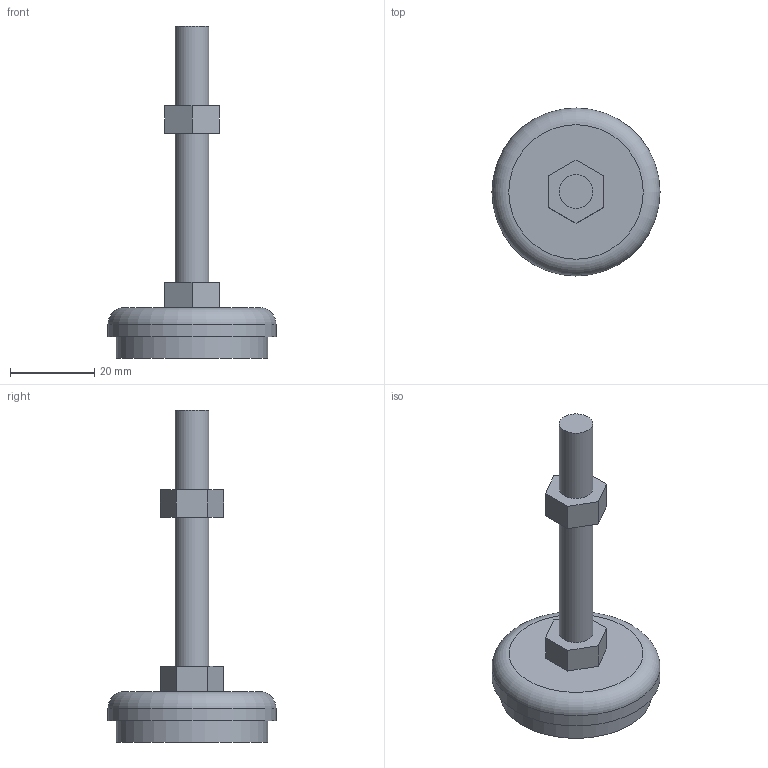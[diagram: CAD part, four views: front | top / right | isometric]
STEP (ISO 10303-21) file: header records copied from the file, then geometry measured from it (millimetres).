
FILE_DESCRIPTION((''),'2;1');
FILE_NAME('C:\Documents and Settings\古川典政\My Documents\Inventor\HP用\MasterData\ACCESSORY\M6\LFN-08.stp','2008-08-05T14:47:17',(''),(''),'Autodesk Inventor 2008','Autodesk Inventor 2008','');
FILE_SCHEMA(('CONFIG_CONTROL_DESIGN'));
Length unit declared in the file: millimetre
Products named in the file (3): LFN-08; LFN-081; LFN-082
Assembly tree (2 placements, depth 2):
  LFN-08
    LFN-081
    LFN-082
Bounding box: 40 x 40 x 79 mm (x, y, z)
Volume: 18042.6 mm3; surface area: 6187.1 mm2
Topology: 2 solids, 2 shells, 24 faces, 51 edges, 34 vertices
Faces by surface type: plane 19, cylinder 3, bspline 1, torus 1
Full cylindrical faces by diameter (mm): 8 x1, 36 x1, 40 x1
Entity records: 699 total; most frequent: CARTESIAN_POINT 124, DIRECTION 110, ORIENTED_EDGE 90, EDGE_CURVE 45, AXIS2_PLACEMENT_3D 37, VECTOR 36, LINE 36, EDGE_LOOP 34
